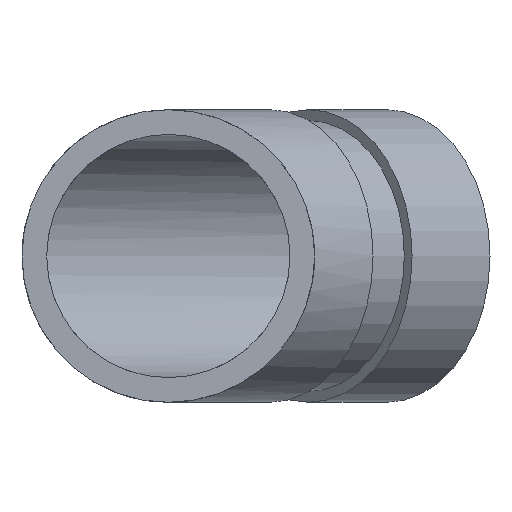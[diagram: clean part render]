
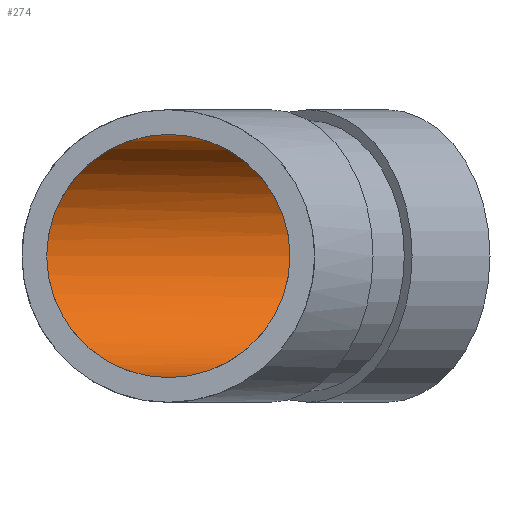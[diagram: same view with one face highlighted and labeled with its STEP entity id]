
A CAD part, front view. The second image highlights one B-rep face of the part: STEP entity #274.
In plain terms, the highlighted cylindrical face has radius 17.526 mm (diameter 35.052 mm), a full revolution.
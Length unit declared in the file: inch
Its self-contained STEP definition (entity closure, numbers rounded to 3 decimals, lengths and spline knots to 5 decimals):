
#45=ELLIPSE('',#322,0.74685,0.69);
#46=ELLIPSE('',#323,0.74685,0.69);
#47=ELLIPSE('',#324,0.74685,0.69);
#72=FACE_OUTER_BOUND('',#90,.T.);
#90=EDGE_LOOP('',(#219,#220,#221,#222,#223,#224));
#102=LINE('',#510,#110);
#110=VECTOR('',#413,0.69);
#128=CIRCLE('',#327,0.69);
#143=VERTEX_POINT('',#498);
#144=VERTEX_POINT('',#499);
#145=VERTEX_POINT('',#501);
#147=VERTEX_POINT('',#508);
#169=EDGE_CURVE('',#143,#144,#45,.T.);
#170=EDGE_CURVE('',#143,#145,#46,.T.);
#171=EDGE_CURVE('',#144,#145,#47,.T.);
#174=EDGE_CURVE('',#147,#147,#128,.T.);
#175=EDGE_CURVE('',#147,#144,#102,.T.);
#219=ORIENTED_EDGE('',*,*,#174,.F.);
#220=ORIENTED_EDGE('',*,*,#175,.T.);
#221=ORIENTED_EDGE('',*,*,#171,.T.);
#222=ORIENTED_EDGE('',*,*,#170,.F.);
#223=ORIENTED_EDGE('',*,*,#169,.T.);
#224=ORIENTED_EDGE('',*,*,#175,.F.);
#246=CYLINDRICAL_SURFACE('',#326,0.69);
#274=ADVANCED_FACE('',(#72),#246,.F.);
#322=AXIS2_PLACEMENT_3D('',#500,#400,#401);
#323=AXIS2_PLACEMENT_3D('',#502,#402,#403);
#324=AXIS2_PLACEMENT_3D('',#503,#404,#405);
#326=AXIS2_PLACEMENT_3D('',#507,#409,#410);
#327=AXIS2_PLACEMENT_3D('',#509,#411,#412);
#400=DIRECTION('center_axis',(-0.383,-0.924,0.));
#401=DIRECTION('ref_axis',(0.924,-0.383,0.));
#402=DIRECTION('center_axis',(0.383,0.924,0.));
#403=DIRECTION('ref_axis',(0.924,-0.383,0.));
#404=DIRECTION('center_axis',(-0.383,-0.924,0.));
#405=DIRECTION('ref_axis',(0.924,-0.383,0.));
#409=DIRECTION('center_axis',(-0.707,-0.707,0.));
#410=DIRECTION('ref_axis',(0.707,-0.707,0.));
#411=DIRECTION('center_axis',(-0.707,-0.707,0.));
#412=DIRECTION('ref_axis',(0.707,-0.707,0.));
#413=DIRECTION('',(-0.707,-0.707,0.));
#498=CARTESIAN_POINT('',(0.,0.,0.69));
#499=CARTESIAN_POINT('',(-0.69,0.28581,0.));
#500=CARTESIAN_POINT('Origin',(0.,0.,
0.));
#501=CARTESIAN_POINT('',(0.,0.,-0.69));
#502=CARTESIAN_POINT('Origin',(0.,0.,0.));
#503=CARTESIAN_POINT('Origin',(0.,0.,
0.));
#507=CARTESIAN_POINT('Origin',(1.23744,1.23744,0.));
#508=CARTESIAN_POINT('',(0.74953,1.72534,0.));
#509=CARTESIAN_POINT('Origin',(1.23744,1.23744,0.));
#510=CARTESIAN_POINT('',(0.74953,1.72534,0.));
